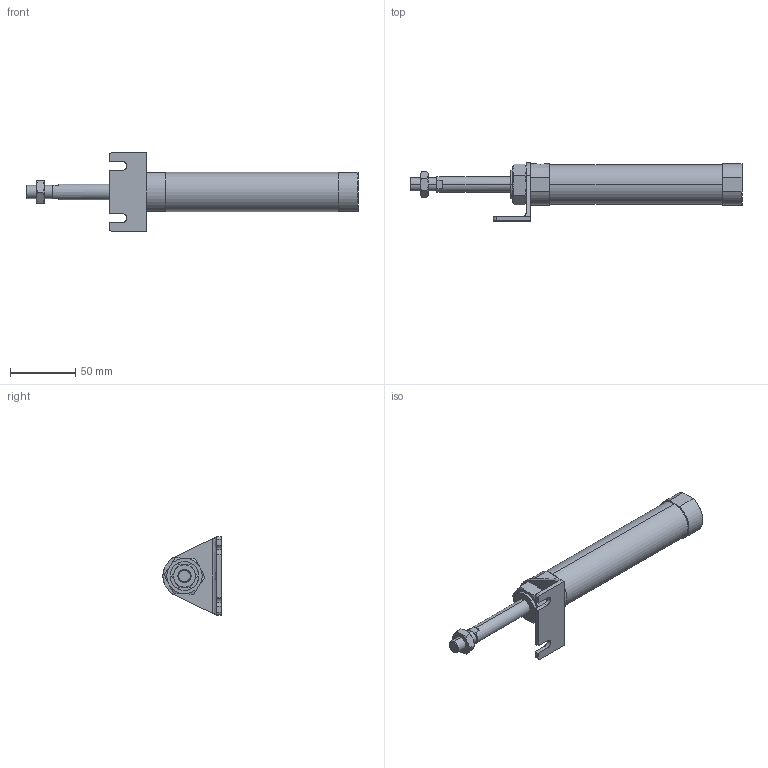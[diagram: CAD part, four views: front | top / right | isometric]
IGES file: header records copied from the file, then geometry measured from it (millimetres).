
Start section: SolidWorks IGES file using analytic representation for surfaces
Global section: file name: C:\Users\Toshiba\Desktop\JGND0-25-50-L.IGS; native system: SolidWorks 2014; preprocessor: SolidWorks 2014; author: Toshiba; date: 160804.101114; units: millimetre
Bounding box: 254 x 44.5 x 60 mm (x, y, z)
Surface area: 31112.8 mm2 (no closed solid volume)
Topology: 0 solids, 0 shells, 111 faces, 1846 edges, 1844 vertices
Faces by surface type: bspline 74, revolution 37
